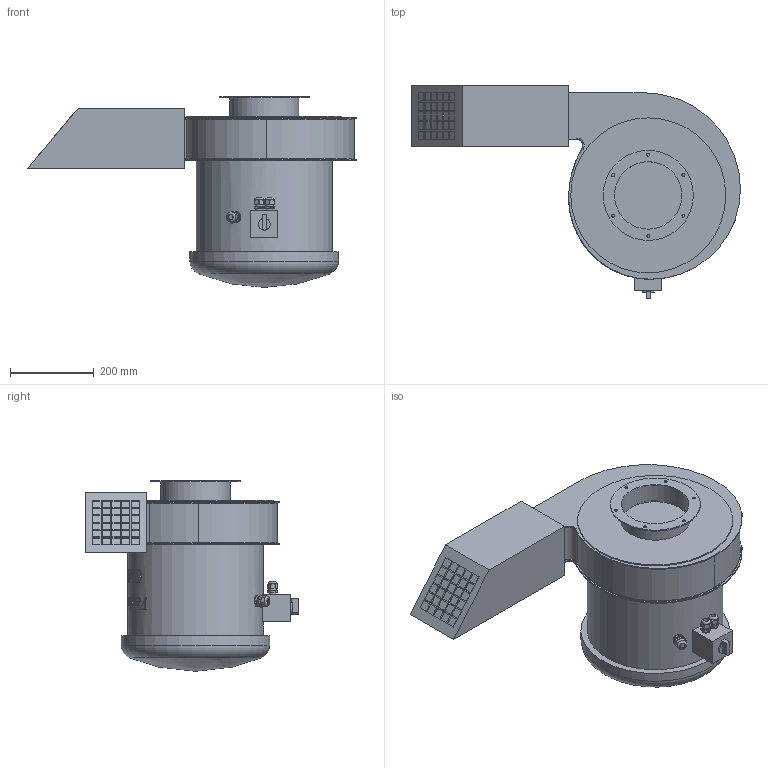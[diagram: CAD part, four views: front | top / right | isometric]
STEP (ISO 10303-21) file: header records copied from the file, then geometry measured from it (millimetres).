
FILE_DESCRIPTION(/* description */ (''),/* implementation_level */ '2;1');
FILE_NAME(/* name */ 'E:\Mariusz\Modele uproszczone\GMT-R\GMT-R_100 42552230\GMT-R_100 42552230\GMT-R_100 42552230.stp',/* time_stamp */ '2018-06-20T10:24:40+02:00',/* author */ ('M.Janczarek'),/* organization */ (''),/* preprocessor_version */ 'ST-DEVELOPER v16.5',/* originating_system */ 'Autodesk Inventor 2017',/* authorisation */ '');
FILE_SCHEMA (('AUTOMOTIVE_DESIGN { 1 0 10303 214 3 1 1 }'));
Length unit declared in the file: millimetre
Products named in the file (1): GMT-R_100 42552230
Bounding box: 784.86 x 508.75 x 455 mm (x, y, z)
Volume: 46314237.7 mm3; surface area: 1094083.2 mm2
Topology: 1 solids, 1 shells, 939 faces, 2511 edges, 1660 vertices
Faces by surface type: plane 414, bspline 409, cylinder 88, torus 12, cone 9, sphere 7
Full cylindrical faces by diameter (mm): 7.1 x6, 11.5 x2, 13.5 x2, 18 x4, 22 x1, 24.5 x1, 27 x1, 28 x1, 161 x1, 165 x1, 215 x1, 324 x1, 355 x1, 370 x1
Entity records: 36353 total; most frequent: CARTESIAN_POINT 14901, ORIENTED_EDGE 4936, DIRECTION 3123, EDGE_CURVE 2468, VERTEX_POINT 1649, LINE 1325, VECTOR 1325, EDGE_LOOP 1069
